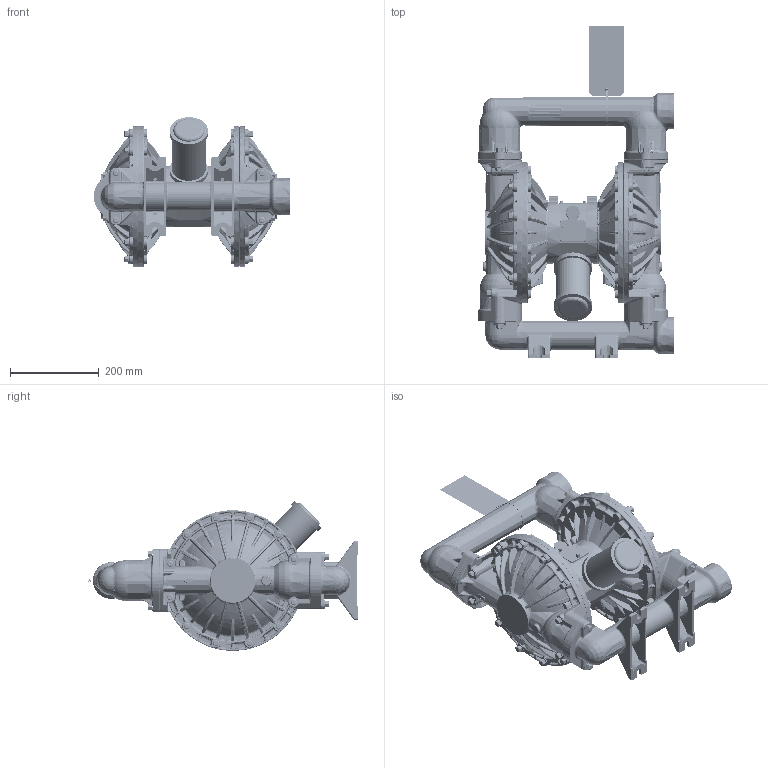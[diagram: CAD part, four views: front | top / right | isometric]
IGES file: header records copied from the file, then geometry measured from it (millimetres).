
Start section:  PTC IGES file: 24b782-en-j.igs
Global section: file name: 24b782-en-j.igs; native system: Creo Parametric by PTC Inc.; preprocessor: 2019030; author: qusrh3; organization: Unknown; date: 20191231.165026; units: inch
Bounding box: 443.23 x 749.05 x 338.06 mm (x, y, z)
Surface area: 1276915.2 mm2 (no closed solid volume)
Topology: 0 solids, 0 shells, 7489 faces, 35269 edges, 35269 vertices
Faces by surface type: bspline 4574, revolution 2797, extrusion 118
